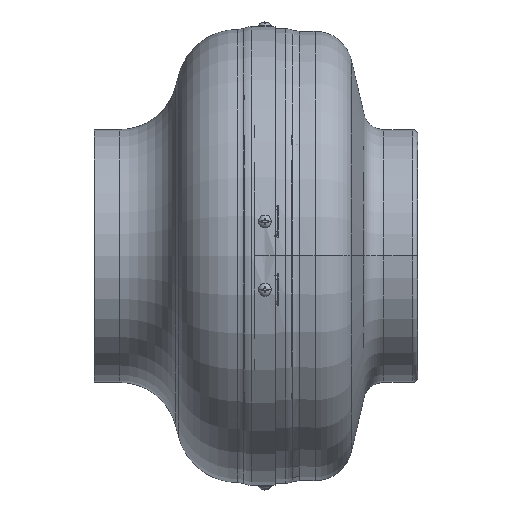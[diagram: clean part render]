
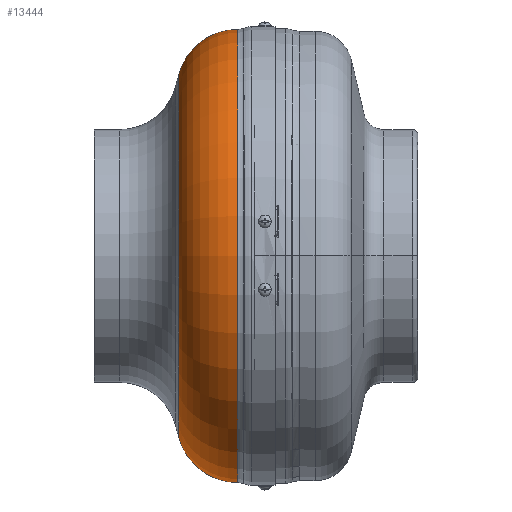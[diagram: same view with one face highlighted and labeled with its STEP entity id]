
A CAD part, top view. The second image highlights one B-rep face of the part: STEP entity #13444.
In plain terms, the highlighted toroidal (fillet/blend) face has major radius 97.5 mm and minor radius 36 mm.
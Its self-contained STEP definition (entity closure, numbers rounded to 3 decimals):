
#27 = CARTESIAN_POINT ( 'NONE',  ( -44.801, -106.716, 0. ) ) ;
#231 = CARTESIAN_POINT ( 'NONE',  ( -10., 133.5, 0. ) ) ;
#241 = CARTESIAN_POINT ( 'NONE',  ( -10., -133.5, 0. ) ) ;
#1164 = CARTESIAN_POINT ( 'NONE',  ( -10., 97.5, 0. ) ) ;
#1165 = DIRECTION ( 'NONE',  ( 0., 0., 1. ) ) ;
#1166 = DIRECTION ( 'NONE',  ( 0., -1., 0. ) ) ;
#1172 = CARTESIAN_POINT ( 'NONE',  ( -10., 0., 0. ) ) ;
#1173 = DIRECTION ( 'NONE',  ( -1., 0., 0. ) ) ;
#1174 = DIRECTION ( 'NONE',  ( 0., -1., 0. ) ) ;
#1332 = CARTESIAN_POINT ( 'NONE',  ( -10., -97.5, 0. ) ) ;
#1333 = DIRECTION ( 'NONE',  ( 0., 0., -1. ) ) ;
#1334 = DIRECTION ( 'NONE',  ( -1., 0., 0. ) ) ;
#1342 = CARTESIAN_POINT ( 'NONE',  ( -44.801, 0., 0. ) ) ;
#1343 = DIRECTION ( 'NONE',  ( -1., 0., 0. ) ) ;
#1344 = DIRECTION ( 'NONE',  ( 0., -1., 0. ) ) ;
#2425 = DIRECTION ( 'NONE',  ( -1., 0., 0. ) ) ;
#2429 = CARTESIAN_POINT ( 'NONE',  ( -10., 0., 0. ) ) ;
#2431 = DIRECTION ( 'NONE',  ( 0., -1., 0. ) ) ;
#2929 = CIRCLE ( 'NONE', #8623, 36. ) ;
#2939 = CIRCLE ( 'NONE', #8609, 133.5 ) ;
#2956 = CIRCLE ( 'NONE', #8842, 106.716 ) ;
#2958 = CIRCLE ( 'NONE', #8652, 36. ) ;
#4338 = VERTEX_POINT ( 'NONE', #27 ) ;
#4395 = ORIENTED_EDGE ( 'NONE', *, *, #8431, .T. ) ;
#4396 = ORIENTED_EDGE ( 'NONE', *, *, #8428, .T. ) ;
#4397 = ORIENTED_EDGE ( 'NONE', *, *, #8453, .F. ) ;
#4398 = ORIENTED_EDGE ( 'NONE', *, *, #8450, .F. ) ;
#5038 = VERTEX_POINT ( 'NONE', #8143 ) ;
#7669 = EDGE_LOOP ( 'NONE', ( #4395, #4396, #4397, #4398 ) ) ;
#8143 = CARTESIAN_POINT ( 'NONE',  ( -44.801, 106.716, 0. ) ) ;
#8428 = EDGE_CURVE ( 'NONE', #10729, #5038, #2929, .T. ) ;
#8431 = EDGE_CURVE ( 'NONE', #10739, #10729, #2939, .T. ) ;
#8450 = EDGE_CURVE ( 'NONE', #10739, #4338, #2958, .T. ) ;
#8453 = EDGE_CURVE ( 'NONE', #4338, #5038, #2956, .T. ) ;
#8609 = AXIS2_PLACEMENT_3D ( 'NONE', #1172, #1173, #1174 ) ;
#8623 = AXIS2_PLACEMENT_3D ( 'NONE', #1164, #1165, #1166 ) ;
#8652 = AXIS2_PLACEMENT_3D ( 'NONE', #1332, #1333, #1334 ) ;
#8842 = AXIS2_PLACEMENT_3D ( 'NONE', #1342, #1343, #1344 ) ;
#9552 = TOROIDAL_SURFACE ( 'NONE', #10044, 97.5, 36. ) ;
#9558 = FACE_OUTER_BOUND ( 'NONE', #7669, .T. ) ;
#10044 = AXIS2_PLACEMENT_3D ( 'NONE', #2429, #2425, #2431 ) ;
#10729 = VERTEX_POINT ( 'NONE', #231 ) ;
#10739 = VERTEX_POINT ( 'NONE', #241 ) ;
#13444 = ADVANCED_FACE ( 'NONE', ( #9558 ), #9552, .T. ) ;
